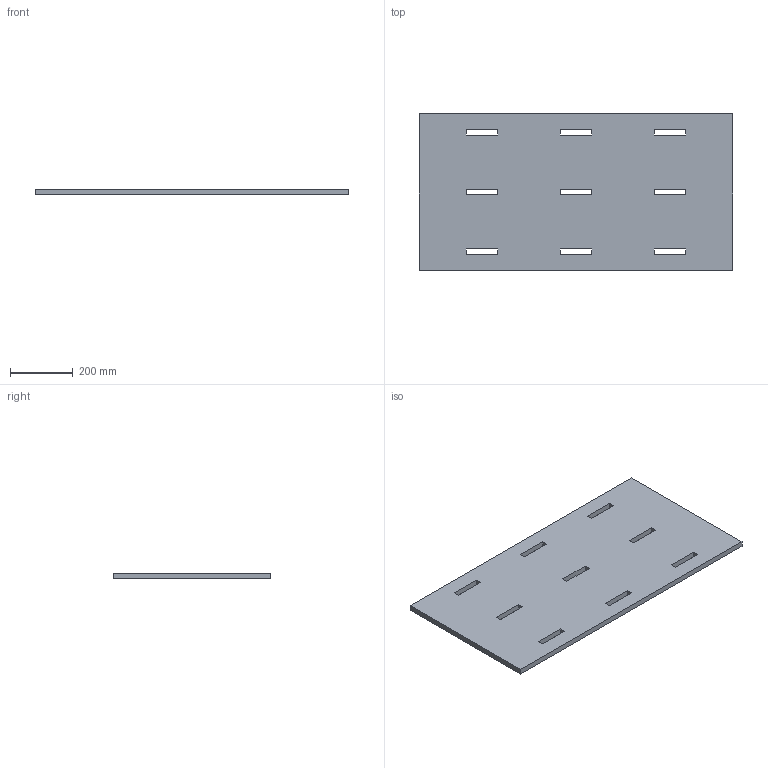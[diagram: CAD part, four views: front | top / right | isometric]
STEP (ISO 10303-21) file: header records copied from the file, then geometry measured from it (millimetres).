
FILE_DESCRIPTION(('Open CASCADE Model'),'2;1');
FILE_NAME('Open CASCADE Shape Model','2026-09-27T16:12:29',('Author'),( 'Open CASCADE'),'Open CASCADE STEP processor 7.9','Open CASCADE 7.9' ,'Unknown');
FILE_SCHEMA(('AUTOMOTIVE_DESIGN { 1 0 10303 214 1 1 1 1 }'));
Length unit declared in the file: millimetre
Products named in the file (1): Open CASCADE STEP translator 7.9 3
Bounding box: 1000 x 500 x 18 mm (x, y, z)
Volume: 8705160 mm3; surface area: 1059536.8 mm2
Topology: 1 solids, 1 shells, 42 faces, 120 edges, 80 vertices
Faces by surface type: plane 42
Entity records: 2806 total; most frequent: CARTESIAN_POINT 627, DIRECTION 302, ORIENTED_EDGE 240, PCURVE 240, DEFINITIONAL_REPRESENTATION 240, LINE 216, VECTOR 216, B_SPLINE_CURVE_WITH_KNOTS 144
